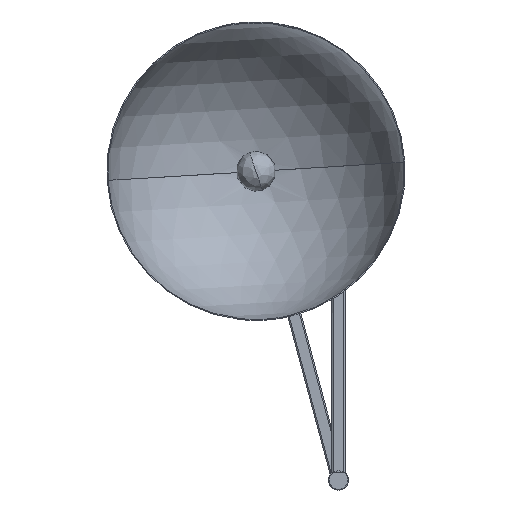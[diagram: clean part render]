
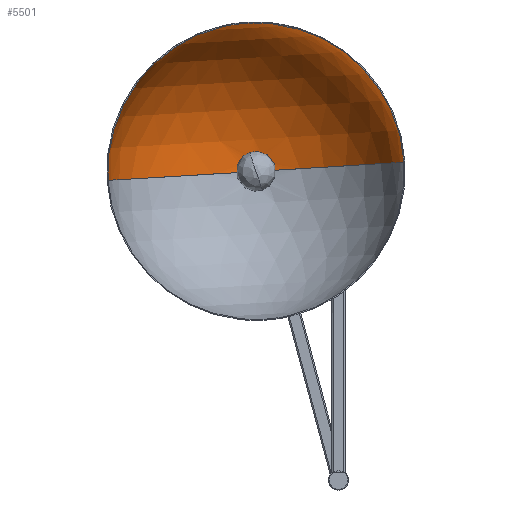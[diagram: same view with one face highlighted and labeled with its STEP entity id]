
A CAD part, top view. The second image highlights one B-rep face of the part: STEP entity #5501.
In plain terms, the highlighted spherical face has radius 223.5 mm.
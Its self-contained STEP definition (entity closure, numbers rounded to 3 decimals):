
#185 = ORIENTED_EDGE ( 'NONE', *, *, #7864, .F. ) ;
#489 = CARTESIAN_POINT ( 'NONE',  ( -124.409, -66.879, 767.702 ) ) ;
#1053 = VERTEX_POINT ( 'NONE', #5860 ) ;
#1319 = VERTEX_POINT ( 'NONE', #7793 ) ;
#1800 = CIRCLE ( 'NONE', #3425, 223.5 ) ;
#1931 = CARTESIAN_POINT ( 'NONE',  ( -124.409, -66.879, 546.016 ) ) ;
#2932 = DIRECTION ( 'NONE',  ( 0.998, 0.061, 0. ) ) ;
#3040 = EDGE_CURVE ( 'NONE', #12595, #8041, #1800, .T. ) ;
#3336 = AXIS2_PLACEMENT_3D ( 'NONE', #1931, #8965, #2932 ) ;
#3425 = AXIS2_PLACEMENT_3D ( 'NONE', #11656, #5659, #12654 ) ;
#3681 = FACE_OUTER_BOUND ( 'NONE', #4771, .T. ) ;
#4152 = EDGE_CURVE ( 'NONE', #1053, #12595, #5434, .T. ) ;
#4199 = DIRECTION ( 'NONE',  ( 0., 0., 1. ) ) ;
#4419 = EDGE_CURVE ( 'NONE', #8041, #1319, #9516, .T. ) ;
#4771 = EDGE_LOOP ( 'NONE', ( #185, #10899, #5924, #5218 ) ) ;
#5218 = ORIENTED_EDGE ( 'NONE', *, *, #4419, .T. ) ;
#5434 = CIRCLE ( 'NONE', #3336, 28.419 ) ;
#5448 = DIRECTION ( 'NONE',  ( -0.061, 0.998, 0. ) ) ;
#5501 = ADVANCED_FACE ( 'NONE', ( #3681 ), #11381, .F. ) ;
#5659 = DIRECTION ( 'NONE',  ( 0.061, -0.998, 0. ) ) ;
#5860 = CARTESIAN_POINT ( 'NONE',  ( -152.774, -68.62, 546.016 ) ) ;
#5924 = ORIENTED_EDGE ( 'NONE', *, *, #3040, .T. ) ;
#7525 = DIRECTION ( 'NONE',  ( -0.061, 0.998, 0. ) ) ;
#7543 = CARTESIAN_POINT ( 'NONE',  ( 98.456, -53.198, 757.889 ) ) ;
#7793 = CARTESIAN_POINT ( 'NONE',  ( -347.274, -80.559, 757.889 ) ) ;
#7864 = EDGE_CURVE ( 'NONE', #1053, #1319, #10701, .T. ) ;
#8041 = VERTEX_POINT ( 'NONE', #7543 ) ;
#8965 = DIRECTION ( 'NONE',  ( 0., 0., -1. ) ) ;
#9516 = CIRCLE ( 'NONE', #12750, 223.284 ) ;
#9997 = AXIS2_PLACEMENT_3D ( 'NONE', #489, #7525, #10546 ) ;
#10201 = CARTESIAN_POINT ( 'NONE',  ( -124.409, -66.879, 757.889 ) ) ;
#10546 = DIRECTION ( 'NONE',  ( 0.998, 0.061, 0. ) ) ;
#10701 = CIRCLE ( 'NONE', #12256, 223.5 ) ;
#10899 = ORIENTED_EDGE ( 'NONE', *, *, #4152, .T. ) ;
#11232 = DIRECTION ( 'NONE',  ( 0.998, 0.061, 0. ) ) ;
#11381 = SPHERICAL_SURFACE ( 'NONE', #9997, 223.5 ) ;
#11460 = CARTESIAN_POINT ( 'NONE',  ( -124.409, -66.879, 767.702 ) ) ;
#11656 = CARTESIAN_POINT ( 'NONE',  ( -124.409, -66.879, 767.702 ) ) ;
#12256 = AXIS2_PLACEMENT_3D ( 'NONE', #11460, #5448, #12441 ) ;
#12441 = DIRECTION ( 'NONE',  ( -0.998, -0.061, 0. ) ) ;
#12595 = VERTEX_POINT ( 'NONE', #12645 ) ;
#12645 = CARTESIAN_POINT ( 'NONE',  ( -96.044, -65.138, 546.016 ) ) ;
#12654 = DIRECTION ( 'NONE',  ( 0.998, 0.061, 0. ) ) ;
#12750 = AXIS2_PLACEMENT_3D ( 'NONE', #10201, #4199, #11232 ) ;
